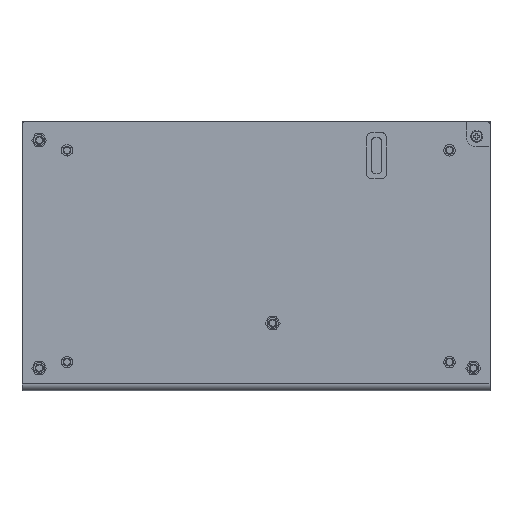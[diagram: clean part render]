
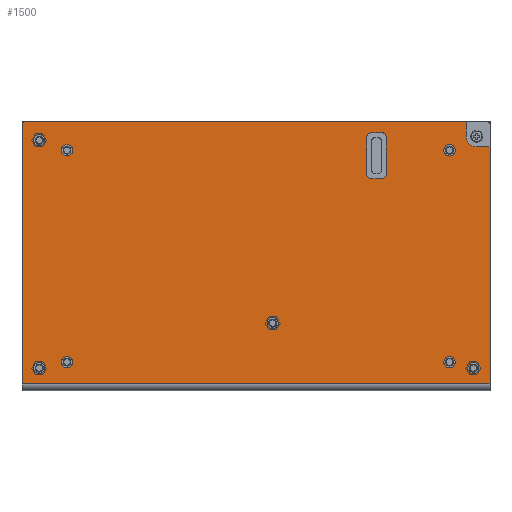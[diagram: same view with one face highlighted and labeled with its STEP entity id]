
A CAD part, top view. The second image highlights one B-rep face of the part: STEP entity #1500.
In plain terms, the highlighted planar face has unit normal (0, 0, 1).
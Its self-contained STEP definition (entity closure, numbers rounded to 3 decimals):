
#70=CARTESIAN_POINT('',(171.8,45.3,0.));
#71=DIRECTION('',(0.,0.,1.));
#72=DIRECTION('',(-1.,0.,0.));
#73=AXIS2_PLACEMENT_3D('',#70,#71,#72);
#75=CARTESIAN_POINT('',(1.,49.8,0.));
#76=DIRECTION('',(0.,0.,-1.));
#77=DIRECTION('',(-1.,0.,0.));
#78=AXIS2_PLACEMENT_3D('',#75,#76,#77);
#80=DIRECTION('',(0.,-1.,0.));
#81=VECTOR('',#80,5.5);
#82=CARTESIAN_POINT('',(167.8,50.8,0.));
#83=LINE('',#82,#81);
#84=CARTESIAN_POINT('',(170.5,-42.3,0.));
#85=DIRECTION('',(0.,0.,1.));
#86=DIRECTION('',(0.,-1.,0.));
#87=AXIS2_PLACEMENT_3D('',#84,#85,#86);
#89=CARTESIAN_POINT('',(170.5,-42.3,0.));
#90=DIRECTION('',(0.,0.,1.));
#91=DIRECTION('',(0.,1.,0.));
#92=AXIS2_PLACEMENT_3D('',#89,#90,#91);
#94=CARTESIAN_POINT('',(6.5,43.8,0.));
#95=DIRECTION('',(0.,0.,1.));
#96=DIRECTION('',(0.,-1.,0.));
#97=AXIS2_PLACEMENT_3D('',#94,#95,#96);
#99=CARTESIAN_POINT('',(6.5,43.8,0.));
#100=DIRECTION('',(0.,0.,1.));
#101=DIRECTION('',(0.,1.,0.));
#102=AXIS2_PLACEMENT_3D('',#99,#100,#101);
#104=CARTESIAN_POINT('',(6.5,-42.3,0.));
#105=DIRECTION('',(0.,0.,1.));
#106=DIRECTION('',(0.,-1.,0.));
#107=AXIS2_PLACEMENT_3D('',#104,#105,#106);
#109=CARTESIAN_POINT('',(6.5,-42.3,0.));
#110=DIRECTION('',(0.,0.,1.));
#111=DIRECTION('',(0.,1.,0.));
#112=AXIS2_PLACEMENT_3D('',#109,#110,#111);
#114=CARTESIAN_POINT('',(17.,40.,0.));
#115=DIRECTION('',(0.,0.,1.));
#116=DIRECTION('',(1.,0.,0.));
#117=AXIS2_PLACEMENT_3D('',#114,#115,#116);
#119=CARTESIAN_POINT('',(17.,40.,0.));
#120=DIRECTION('',(0.,0.,1.));
#121=DIRECTION('',(-1.,0.,0.));
#122=AXIS2_PLACEMENT_3D('',#119,#120,#121);
#124=CARTESIAN_POINT('',(17.,-40.,0.));
#125=DIRECTION('',(0.,0.,1.));
#126=DIRECTION('',(1.,0.,0.));
#127=AXIS2_PLACEMENT_3D('',#124,#125,#126);
#129=CARTESIAN_POINT('',(17.,-40.,0.));
#130=DIRECTION('',(0.,0.,1.));
#131=DIRECTION('',(-1.,0.,0.));
#132=AXIS2_PLACEMENT_3D('',#129,#130,#131);
#134=CARTESIAN_POINT('',(161.5,40.,0.));
#135=DIRECTION('',(0.,0.,1.));
#136=DIRECTION('',(1.,0.,0.));
#137=AXIS2_PLACEMENT_3D('',#134,#135,#136);
#139=CARTESIAN_POINT('',(161.5,40.,0.));
#140=DIRECTION('',(0.,0.,1.));
#141=DIRECTION('',(-1.,0.,0.));
#142=AXIS2_PLACEMENT_3D('',#139,#140,#141);
#144=CARTESIAN_POINT('',(161.5,-40.,0.));
#145=DIRECTION('',(0.,0.,1.));
#146=DIRECTION('',(1.,0.,0.));
#147=AXIS2_PLACEMENT_3D('',#144,#145,#146);
#149=CARTESIAN_POINT('',(161.5,-40.,0.));
#150=DIRECTION('',(0.,0.,1.));
#151=DIRECTION('',(-1.,0.,0.));
#152=AXIS2_PLACEMENT_3D('',#149,#150,#151);
#154=CARTESIAN_POINT('',(94.7,-25.3,0.));
#155=DIRECTION('',(0.,0.,1.));
#156=DIRECTION('',(1.,0.,0.));
#157=AXIS2_PLACEMENT_3D('',#154,#155,#156);
#159=CARTESIAN_POINT('',(94.7,-25.3,0.));
#160=DIRECTION('',(0.,0.,1.));
#161=DIRECTION('',(-1.,0.,0.));
#162=AXIS2_PLACEMENT_3D('',#159,#160,#161);
#164=DIRECTION('',(0.,-1.,0.));
#165=VECTOR('',#164,13.5);
#166=CARTESIAN_POINT('',(130.2,44.7,0.));
#167=LINE('',#166,#165);
#168=CARTESIAN_POINT('',(132.2,31.2,0.));
#169=DIRECTION('',(0.,0.,1.));
#170=DIRECTION('',(-1.,0.,0.));
#171=AXIS2_PLACEMENT_3D('',#168,#169,#170);
#173=DIRECTION('',(1.,0.,0.));
#174=VECTOR('',#173,3.5);
#175=CARTESIAN_POINT('',(132.2,29.2,0.));
#176=LINE('',#175,#174);
#177=CARTESIAN_POINT('',(135.7,31.2,0.));
#178=DIRECTION('',(0.,0.,1.));
#179=DIRECTION('',(0.,-1.,0.));
#180=AXIS2_PLACEMENT_3D('',#177,#178,#179);
#182=DIRECTION('',(0.,1.,0.));
#183=VECTOR('',#182,13.5);
#184=CARTESIAN_POINT('',(137.7,31.2,0.));
#185=LINE('',#184,#183);
#186=CARTESIAN_POINT('',(135.7,44.7,0.));
#187=DIRECTION('',(0.,0.,1.));
#188=DIRECTION('',(1.,0.,0.));
#189=AXIS2_PLACEMENT_3D('',#186,#187,#188);
#191=DIRECTION('',(-1.,0.,0.));
#192=VECTOR('',#191,3.5);
#193=CARTESIAN_POINT('',(135.7,46.7,0.));
#194=LINE('',#193,#192);
#195=CARTESIAN_POINT('',(132.2,44.7,0.));
#196=DIRECTION('',(0.,0.,1.));
#197=DIRECTION('',(0.,1.,0.));
#198=AXIS2_PLACEMENT_3D('',#195,#196,#197);
#220=DIRECTION('',(-1.,0.,0.));
#221=VECTOR('',#220,166.8);
#222=CARTESIAN_POINT('',(167.8,50.8,0.));
#223=LINE('',#222,#221);
#256=DIRECTION('',(0.,1.,0.));
#257=VECTOR('',#256,89.6);
#258=CARTESIAN_POINT('',(176.8,-48.3,0.));
#259=LINE('',#258,#257);
#400=DIRECTION('',(0.,-1.,0.));
#401=VECTOR('',#400,98.1);
#402=CARTESIAN_POINT('',(0.,49.8,0.));
#403=LINE('',#402,#401);
#706=DIRECTION('',(1.,0.,0.));
#707=VECTOR('',#706,176.8);
#708=CARTESIAN_POINT('',(0.,-48.3,0.));
#709=LINE('',#708,#707);
#1084=DIRECTION('',(-1.,0.,0.));
#1085=VECTOR('',#1084,5.);
#1086=CARTESIAN_POINT('',(176.8,41.3,0.));
#1087=LINE('',#1086,#1085);
#1092=CARTESIAN_POINT('',(0.,49.8,0.));
#1093=CARTESIAN_POINT('',(1.,50.8,0.));
#1094=VERTEX_POINT('',#1092);
#1095=VERTEX_POINT('',#1093);
#1100=CARTESIAN_POINT('',(167.8,45.3,0.));
#1101=CARTESIAN_POINT('',(171.8,41.3,0.));
#1102=VERTEX_POINT('',#1100);
#1103=VERTEX_POINT('',#1101);
#1104=CARTESIAN_POINT('',(176.8,41.3,0.));
#1105=VERTEX_POINT('',#1104);
#1106=CARTESIAN_POINT('',(176.8,-48.3,0.));
#1107=VERTEX_POINT('',#1106);
#1108=CARTESIAN_POINT('',(0.,-48.3,0.));
#1109=VERTEX_POINT('',#1108);
#1110=CARTESIAN_POINT('',(167.8,50.8,0.));
#1111=VERTEX_POINT('',#1110);
#1112=CARTESIAN_POINT('',(170.5,-44.4,0.));
#1113=CARTESIAN_POINT('',(170.5,-40.2,0.));
#1114=VERTEX_POINT('',#1112);
#1115=VERTEX_POINT('',#1113);
#1116=CARTESIAN_POINT('',(6.5,41.7,0.));
#1117=CARTESIAN_POINT('',(6.5,45.9,0.));
#1118=VERTEX_POINT('',#1116);
#1119=VERTEX_POINT('',#1117);
#1120=CARTESIAN_POINT('',(6.5,-44.4,0.));
#1121=CARTESIAN_POINT('',(6.5,-40.2,0.));
#1122=VERTEX_POINT('',#1120);
#1123=VERTEX_POINT('',#1121);
#1124=CARTESIAN_POINT('',(19.185,40.,0.));
#1125=CARTESIAN_POINT('',(14.815,40.,0.));
#1126=VERTEX_POINT('',#1124);
#1127=VERTEX_POINT('',#1125);
#1128=CARTESIAN_POINT('',(19.185,-40.,0.));
#1129=CARTESIAN_POINT('',(14.815,-40.,0.));
#1130=VERTEX_POINT('',#1128);
#1131=VERTEX_POINT('',#1129);
#1132=CARTESIAN_POINT('',(163.685,40.,0.));
#1133=CARTESIAN_POINT('',(159.315,40.,0.));
#1134=VERTEX_POINT('',#1132);
#1135=VERTEX_POINT('',#1133);
#1136=CARTESIAN_POINT('',(163.685,-40.,0.));
#1137=CARTESIAN_POINT('',(159.315,-40.,0.));
#1138=VERTEX_POINT('',#1136);
#1139=VERTEX_POINT('',#1137);
#1140=CARTESIAN_POINT('',(96.8,-25.3,0.));
#1141=CARTESIAN_POINT('',(92.6,-25.3,0.));
#1142=VERTEX_POINT('',#1140);
#1143=VERTEX_POINT('',#1141);
#1144=CARTESIAN_POINT('',(130.2,44.7,0.));
#1145=CARTESIAN_POINT('',(130.2,31.2,0.));
#1146=VERTEX_POINT('',#1144);
#1147=VERTEX_POINT('',#1145);
#1148=CARTESIAN_POINT('',(132.2,29.2,0.));
#1149=VERTEX_POINT('',#1148);
#1150=CARTESIAN_POINT('',(135.7,29.2,0.));
#1151=VERTEX_POINT('',#1150);
#1152=CARTESIAN_POINT('',(137.7,31.2,0.));
#1153=VERTEX_POINT('',#1152);
#1154=CARTESIAN_POINT('',(137.7,44.7,0.));
#1155=VERTEX_POINT('',#1154);
#1156=CARTESIAN_POINT('',(135.7,46.7,0.));
#1157=VERTEX_POINT('',#1156);
#1158=CARTESIAN_POINT('',(132.2,46.7,0.));
#1159=VERTEX_POINT('',#1158);
#1412=CARTESIAN_POINT('',(0.,-48.8,0.));
#1413=DIRECTION('',(0.,0.,-1.));
#1414=DIRECTION('',(0.,1.,0.));
#1415=AXIS2_PLACEMENT_3D('',#1412,#1413,#1414);
#1416=PLANE('',#1415);
#1418=ORIENTED_EDGE('',*,*,#1417,.T.);
#1420=ORIENTED_EDGE('',*,*,#1419,.F.);
#1422=ORIENTED_EDGE('',*,*,#1421,.F.);
#1424=ORIENTED_EDGE('',*,*,#1423,.F.);
#1426=ORIENTED_EDGE('',*,*,#1425,.F.);
#1427=ORIENTED_EDGE('',*,*,#1401,.T.);
#1429=ORIENTED_EDGE('',*,*,#1428,.F.);
#1431=ORIENTED_EDGE('',*,*,#1430,.T.);
#1432=EDGE_LOOP('',(#1418,#1420,#1422,#1424,#1426,#1427,#1429,#1431));
#1433=FACE_OUTER_BOUND('',#1432,.F.);
#1435=ORIENTED_EDGE('',*,*,#1434,.T.);
#1437=ORIENTED_EDGE('',*,*,#1436,.T.);
#1438=EDGE_LOOP('',(#1435,#1437));
#1439=FACE_BOUND('',#1438,.F.);
#1441=ORIENTED_EDGE('',*,*,#1440,.T.);
#1443=ORIENTED_EDGE('',*,*,#1442,.T.);
#1444=EDGE_LOOP('',(#1441,#1443));
#1445=FACE_BOUND('',#1444,.F.);
#1447=ORIENTED_EDGE('',*,*,#1446,.T.);
#1449=ORIENTED_EDGE('',*,*,#1448,.T.);
#1450=EDGE_LOOP('',(#1447,#1449));
#1451=FACE_BOUND('',#1450,.F.);
#1453=ORIENTED_EDGE('',*,*,#1452,.T.);
#1455=ORIENTED_EDGE('',*,*,#1454,.T.);
#1456=EDGE_LOOP('',(#1453,#1455));
#1457=FACE_BOUND('',#1456,.F.);
#1459=ORIENTED_EDGE('',*,*,#1458,.T.);
#1461=ORIENTED_EDGE('',*,*,#1460,.T.);
#1462=EDGE_LOOP('',(#1459,#1461));
#1463=FACE_BOUND('',#1462,.F.);
#1465=ORIENTED_EDGE('',*,*,#1464,.T.);
#1467=ORIENTED_EDGE('',*,*,#1466,.T.);
#1468=EDGE_LOOP('',(#1465,#1467));
#1469=FACE_BOUND('',#1468,.F.);
#1471=ORIENTED_EDGE('',*,*,#1470,.T.);
#1473=ORIENTED_EDGE('',*,*,#1472,.T.);
#1474=EDGE_LOOP('',(#1471,#1473));
#1475=FACE_BOUND('',#1474,.F.);
#1477=ORIENTED_EDGE('',*,*,#1476,.T.);
#1479=ORIENTED_EDGE('',*,*,#1478,.T.);
#1480=EDGE_LOOP('',(#1477,#1479));
#1481=FACE_BOUND('',#1480,.F.);
#1483=ORIENTED_EDGE('',*,*,#1482,.T.);
#1485=ORIENTED_EDGE('',*,*,#1484,.T.);
#1487=ORIENTED_EDGE('',*,*,#1486,.T.);
#1489=ORIENTED_EDGE('',*,*,#1488,.T.);
#1491=ORIENTED_EDGE('',*,*,#1490,.T.);
#1493=ORIENTED_EDGE('',*,*,#1492,.T.);
#1495=ORIENTED_EDGE('',*,*,#1494,.T.);
#1497=ORIENTED_EDGE('',*,*,#1496,.T.);
#1498=EDGE_LOOP('',(#1483,#1485,#1487,#1489,#1491,#1493,#1495,#1497));
#1499=FACE_BOUND('',#1498,.F.);
#74=CIRCLE('',#73,4.);
#79=CIRCLE('',#78,1.);
#88=CIRCLE('',#87,2.1);
#93=CIRCLE('',#92,2.1);
#98=CIRCLE('',#97,2.1);
#103=CIRCLE('',#102,2.1);
#108=CIRCLE('',#107,2.1);
#113=CIRCLE('',#112,2.1);
#118=CIRCLE('',#117,2.185);
#123=CIRCLE('',#122,2.185);
#128=CIRCLE('',#127,2.185);
#133=CIRCLE('',#132,2.185);
#138=CIRCLE('',#137,2.185);
#143=CIRCLE('',#142,2.185);
#148=CIRCLE('',#147,2.185);
#153=CIRCLE('',#152,2.185);
#158=CIRCLE('',#157,2.1);
#163=CIRCLE('',#162,2.1);
#172=CIRCLE('',#171,2.);
#181=CIRCLE('',#180,2.);
#190=CIRCLE('',#189,2.);
#199=CIRCLE('',#198,2.);
#1401=EDGE_CURVE('',#1094,#1095,#79,.T.);
#1417=EDGE_CURVE('',#1102,#1103,#74,.T.);
#1419=EDGE_CURVE('',#1105,#1103,#1087,.T.);
#1421=EDGE_CURVE('',#1107,#1105,#259,.T.);
#1423=EDGE_CURVE('',#1109,#1107,#709,.T.);
#1425=EDGE_CURVE('',#1094,#1109,#403,.T.);
#1428=EDGE_CURVE('',#1111,#1095,#223,.T.);
#1430=EDGE_CURVE('',#1111,#1102,#83,.T.);
#1434=EDGE_CURVE('',#1114,#1115,#88,.T.);
#1436=EDGE_CURVE('',#1115,#1114,#93,.T.);
#1440=EDGE_CURVE('',#1118,#1119,#98,.T.);
#1442=EDGE_CURVE('',#1119,#1118,#103,.T.);
#1446=EDGE_CURVE('',#1122,#1123,#108,.T.);
#1448=EDGE_CURVE('',#1123,#1122,#113,.T.);
#1452=EDGE_CURVE('',#1126,#1127,#118,.T.);
#1454=EDGE_CURVE('',#1127,#1126,#123,.T.);
#1458=EDGE_CURVE('',#1130,#1131,#128,.T.);
#1460=EDGE_CURVE('',#1131,#1130,#133,.T.);
#1464=EDGE_CURVE('',#1134,#1135,#138,.T.);
#1466=EDGE_CURVE('',#1135,#1134,#143,.T.);
#1470=EDGE_CURVE('',#1138,#1139,#148,.T.);
#1472=EDGE_CURVE('',#1139,#1138,#153,.T.);
#1476=EDGE_CURVE('',#1142,#1143,#158,.T.);
#1478=EDGE_CURVE('',#1143,#1142,#163,.T.);
#1482=EDGE_CURVE('',#1146,#1147,#167,.T.);
#1484=EDGE_CURVE('',#1147,#1149,#172,.T.);
#1486=EDGE_CURVE('',#1149,#1151,#176,.T.);
#1488=EDGE_CURVE('',#1151,#1153,#181,.T.);
#1490=EDGE_CURVE('',#1153,#1155,#185,.T.);
#1492=EDGE_CURVE('',#1155,#1157,#190,.T.);
#1494=EDGE_CURVE('',#1157,#1159,#194,.T.);
#1496=EDGE_CURVE('',#1159,#1146,#199,.T.);
#1500=ADVANCED_FACE('',(#1433,#1439,#1445,#1451,#1457,#1463,#1469,#1475,#1481,
#1499),#1416,.F.);
